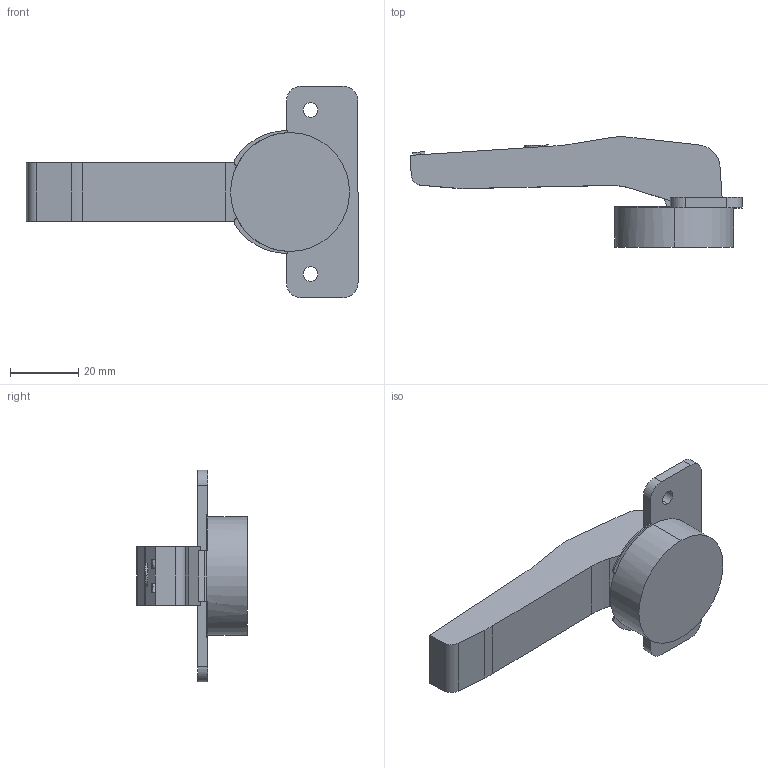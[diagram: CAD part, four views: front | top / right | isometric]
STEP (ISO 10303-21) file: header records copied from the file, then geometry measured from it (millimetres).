
FILE_DESCRIPTION (( 'STEP AP203' ), '1' );
FILE_NAME ('C82J276F-DTC 3D close.STEP', '2024-09-09T00:55:21', ( '微软用户' ), ( '微软中国' ), 'SwSTEP 2.0', 'SolidWorks 2021', '' );
FILE_SCHEMA (( 'CONFIG_CONTROL_DESIGN' ));
Length unit declared in the file: millimetre
Products named in the file (1): C82J276F-DTC 3D close
Bounding box: 97.18 x 32.3 x 61.96 mm (x, y, z)
Volume: 34791.9 mm3; surface area: 10538.9 mm2
Topology: 1 solids, 1 shells, 73 faces, 203 edges, 136 vertices
Faces by surface type: plane 36, cylinder 33, torus 2, bspline 2
Entity records: 2458 total; most frequent: CARTESIAN_POINT 473, ORIENTED_EDGE 406, DIRECTION 397, EDGE_CURVE 203, AXIS2_PLACEMENT_3D 138, VERTEX_POINT 136, LINE 121, VECTOR 121
